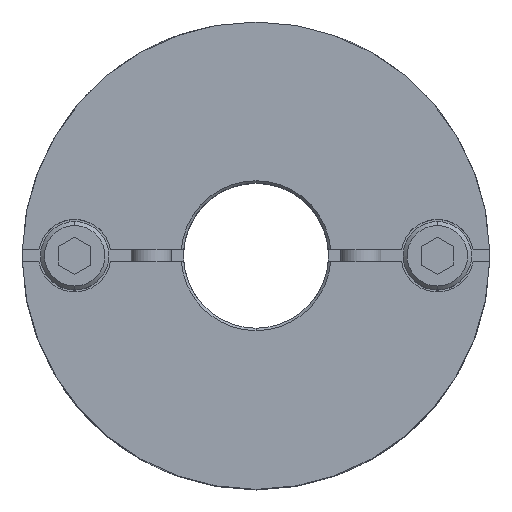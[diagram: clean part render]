
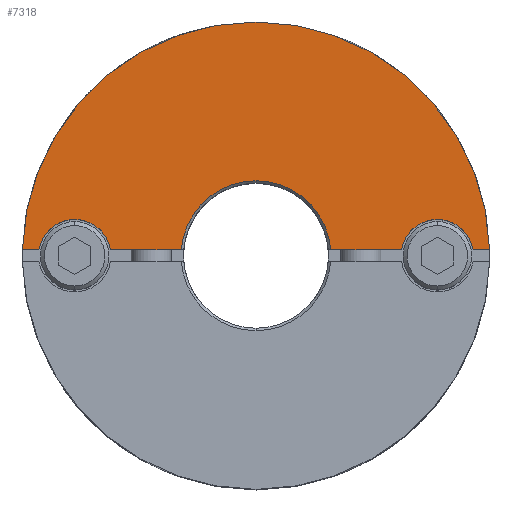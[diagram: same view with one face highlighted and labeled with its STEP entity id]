
A CAD part, top view. The second image highlights one B-rep face of the part: STEP entity #7318.
In plain terms, the highlighted planar face has unit normal (0, 0, 1).
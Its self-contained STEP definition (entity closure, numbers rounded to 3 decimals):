
#605=CARTESIAN_POINT('',(0.,29.,22.4));
#606=VERTEX_POINT('',#605);
#690=CARTESIAN_POINT('',(-28.99,0.75,22.4));
#691=VERTEX_POINT('',#690);
#698=CARTESIAN_POINT('',(0.0,0.,22.4));
#699=DIRECTION('',(0.0,0.0,-1.0));
#700=DIRECTION('',(0.0,1.0,0.0));
#701=AXIS2_PLACEMENT_3D('',#698,#699,#700);
#702=CIRCLE('',#701,29.0);
#703=EDGE_CURVE('',#691,#606,#702,.T.);
#1021=CARTESIAN_POINT('',(0.,9.3,22.4));
#1022=VERTEX_POINT('',#1021);
#1029=CARTESIAN_POINT('',(-9.27,0.75,22.4));
#1030=VERTEX_POINT('',#1029);
#1031=CARTESIAN_POINT('',(0.0,0.,22.4));
#1032=DIRECTION('',(0.0,0.0,1.0));
#1033=DIRECTION('',(0.0,-1.0,0.0));
#1034=AXIS2_PLACEMENT_3D('',#1031,#1032,#1033);
#1035=CIRCLE('',#1034,9.3);
#1036=EDGE_CURVE('',#1022,#1030,#1035,.T.);
#1099=CARTESIAN_POINT('',(-22.5,4.5,22.4));
#1100=VERTEX_POINT('',#1099);
#1109=CARTESIAN_POINT('',(-26.937,0.75,22.4));
#1110=VERTEX_POINT('',#1109);
#1111=CARTESIAN_POINT('',(-22.5,0.,22.4));
#1112=DIRECTION('',(0.0,0.0,-1.0));
#1113=DIRECTION('',(0.0,1.0,0.0));
#1114=AXIS2_PLACEMENT_3D('',#1111,#1112,#1113);
#1115=CIRCLE('',#1114,4.5);
#1116=EDGE_CURVE('',#1110,#1100,#1115,.T.);
#1183=CARTESIAN_POINT('',(22.5,4.5,22.4));
#1184=VERTEX_POINT('',#1183);
#1193=CARTESIAN_POINT('',(18.063,0.75,22.4));
#1194=VERTEX_POINT('',#1193);
#1195=CARTESIAN_POINT('',(22.5,0.,22.4));
#1196=DIRECTION('',(0.0,0.0,-1.0));
#1197=DIRECTION('',(0.0,1.0,0.0));
#1198=AXIS2_PLACEMENT_3D('',#1195,#1196,#1197);
#1199=CIRCLE('',#1198,4.5);
#1200=EDGE_CURVE('',#1194,#1184,#1199,.T.);
#6994=CARTESIAN_POINT('',(26.937,0.75,22.4));
#6995=VERTEX_POINT('',#6994);
#7002=CARTESIAN_POINT('',(22.5,0.,22.4));
#7003=DIRECTION('',(0.0,0.0,-1.0));
#7004=DIRECTION('',(0.0,1.0,0.0));
#7005=AXIS2_PLACEMENT_3D('',#7002,#7003,#7004);
#7006=CIRCLE('',#7005,4.5);
#7007=EDGE_CURVE('',#1184,#6995,#7006,.T.);
#7060=CARTESIAN_POINT('',(-18.063,0.75,22.4));
#7061=VERTEX_POINT('',#7060);
#7068=CARTESIAN_POINT('',(-22.5,0.,22.4));
#7069=DIRECTION('',(0.0,0.0,-1.0));
#7070=DIRECTION('',(0.0,1.0,0.0));
#7071=AXIS2_PLACEMENT_3D('',#7068,#7069,#7070);
#7072=CIRCLE('',#7071,4.5);
#7073=EDGE_CURVE('',#1100,#7061,#7072,.T.);
#7092=CARTESIAN_POINT('',(28.99,0.75,22.4));
#7093=VERTEX_POINT('',#7092);
#7100=CARTESIAN_POINT('',(26.937,0.75,22.4));
#7101=DIRECTION('',(1.0,0.0,0.0));
#7102=VECTOR('',#7101,2.053);
#7103=LINE('',#7100,#7102);
#7104=EDGE_CURVE('',#6995,#7093,#7103,.T.);
#7115=CARTESIAN_POINT('',(9.27,0.75,22.4));
#7116=VERTEX_POINT('',#7115);
#7117=CARTESIAN_POINT('',(9.27,0.75,22.4));
#7118=DIRECTION('',(1.0,0.0,0.0));
#7119=VECTOR('',#7118,8.793);
#7120=LINE('',#7117,#7119);
#7121=EDGE_CURVE('',#7116,#1194,#7120,.T.);
#7277=CARTESIAN_POINT('',(0.,2.636,22.4));
#7278=DIRECTION('',(0.0,0.0,1.0));
#7279=DIRECTION('',(0.0,1.0,0.0));
#7280=AXIS2_PLACEMENT_3D('',#7277,#7278,#7279);
#7281=PLANE('',#7280);
#7282=ORIENTED_EDGE('',*,*,#1200,.T.);
#7283=ORIENTED_EDGE('',*,*,#7007,.T.);
#7284=ORIENTED_EDGE('',*,*,#7104,.T.);
#7285=CARTESIAN_POINT('',(0.0,0.,22.4));
#7286=DIRECTION('',(0.0,0.0,-1.0));
#7287=DIRECTION('',(0.0,1.0,0.0));
#7288=AXIS2_PLACEMENT_3D('',#7285,#7286,#7287);
#7289=CIRCLE('',#7288,29.0);
#7290=EDGE_CURVE('',#606,#7093,#7289,.T.);
#7291=ORIENTED_EDGE('',*,*,#7290,.F.);
#7292=ORIENTED_EDGE('',*,*,#703,.F.);
#7293=CARTESIAN_POINT('',(-28.99,0.75,22.4));
#7294=DIRECTION('',(1.0,0.0,0.0));
#7295=VECTOR('',#7294,2.053);
#7296=LINE('',#7293,#7295);
#7297=EDGE_CURVE('',#691,#1110,#7296,.T.);
#7298=ORIENTED_EDGE('',*,*,#7297,.T.);
#7299=ORIENTED_EDGE('',*,*,#1116,.T.);
#7300=ORIENTED_EDGE('',*,*,#7073,.T.);
#7301=CARTESIAN_POINT('',(-18.063,0.75,22.4));
#7302=DIRECTION('',(1.0,0.0,0.0));
#7303=VECTOR('',#7302,8.793);
#7304=LINE('',#7301,#7303);
#7305=EDGE_CURVE('',#7061,#1030,#7304,.T.);
#7306=ORIENTED_EDGE('',*,*,#7305,.T.);
#7307=ORIENTED_EDGE('',*,*,#1036,.F.);
#7308=CARTESIAN_POINT('',(0.0,0.,22.4));
#7309=DIRECTION('',(0.0,0.0,1.0));
#7310=DIRECTION('',(0.0,-1.0,0.0));
#7311=AXIS2_PLACEMENT_3D('',#7308,#7309,#7310);
#7312=CIRCLE('',#7311,9.3);
#7313=EDGE_CURVE('',#7116,#1022,#7312,.T.);
#7314=ORIENTED_EDGE('',*,*,#7313,.F.);
#7315=ORIENTED_EDGE('',*,*,#7121,.T.);
#7316=EDGE_LOOP('',(#7282,#7283,#7284,#7291,#7292,#7298,#7299,#7300,#7306,#7307,#7314,#7315));
#7317=FACE_OUTER_BOUND('',#7316,.T.);
#7318=ADVANCED_FACE('',(#7317),#7281,.T.);
